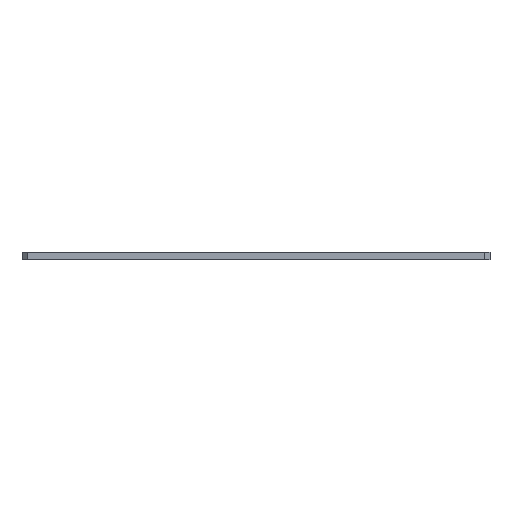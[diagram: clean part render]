
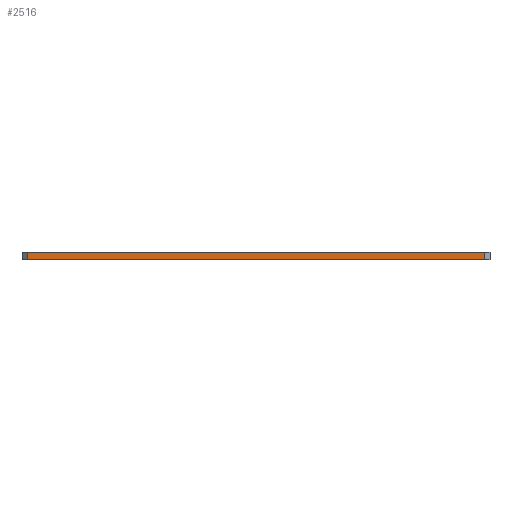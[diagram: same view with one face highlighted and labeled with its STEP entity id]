
A CAD part, left-side view. The second image highlights one B-rep face of the part: STEP entity #2516.
In plain terms, the highlighted planar face has unit normal (-1, 0, 0).
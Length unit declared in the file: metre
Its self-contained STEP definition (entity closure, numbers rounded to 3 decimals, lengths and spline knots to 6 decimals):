
#642=ORIENTED_EDGE('',*,*,#982,.T.);
#643=ORIENTED_EDGE('',*,*,#1066,.T.);
#644=ORIENTED_EDGE('',*,*,#861,.F.);
#645=ORIENTED_EDGE('',*,*,#1067,.T.);
#861=EDGE_CURVE('',#1192,#1193,#1407,.T.);
#982=EDGE_CURVE('',#1307,#1306,#1506,.T.);
#1066=EDGE_CURVE('',#1306,#1193,#1590,.T.);
#1067=EDGE_CURVE('',#1192,#1307,#1591,.T.);
#1192=VERTEX_POINT('',#3590);
#1193=VERTEX_POINT('',#3592);
#1306=VERTEX_POINT('',#3826);
#1307=VERTEX_POINT('',#3828);
#1407=LINE('',#3591,#1695);
#1506=LINE('',#3827,#1794);
#1590=LINE('',#3993,#1878);
#1591=LINE('',#3994,#1879);
#1695=VECTOR('',#2882,1.);
#1794=VECTOR('',#3027,1.);
#1878=VECTOR('',#3269,1.);
#1879=VECTOR('',#3270,1.);
#2052=EDGE_LOOP('',(#642,#643,#644,#645));
#2276=FACE_BOUND('',#2052,.T.);
#2418=PLANE('',#2693);
#2516=ADVANCED_FACE('',(#2276),#2418,.F.);
#2693=AXIS2_PLACEMENT_3D('',#3992,#3267,#3268);
#2882=DIRECTION('',(0.,-1.,0.));
#3027=DIRECTION('',(0.,-1.,0.));
#3267=DIRECTION('',(1.,0.,0.));
#3268=DIRECTION('',(0.,1.,0.));
#3269=DIRECTION('',(0.,0.,1.));
#3270=DIRECTION('',(0.,0.,-1.));
#3590=CARTESIAN_POINT('',(-0.145,0.038,0.04001));
#3591=CARTESIAN_POINT('',(-0.145,-0.099,0.04001));
#3592=CARTESIAN_POINT('',(-0.145,-0.236,0.04001));
#3826=CARTESIAN_POINT('',(-0.145,-0.236,0.03551));
#3827=CARTESIAN_POINT('',(-0.145,-0.099,0.03551));
#3828=CARTESIAN_POINT('',(-0.145,0.038,0.03551));
#3992=CARTESIAN_POINT('',(-0.145,-0.099,0.04001));
#3993=CARTESIAN_POINT('',(-0.145,-0.236,0.04001));
#3994=CARTESIAN_POINT('',(-0.145,0.038,0.03551));
